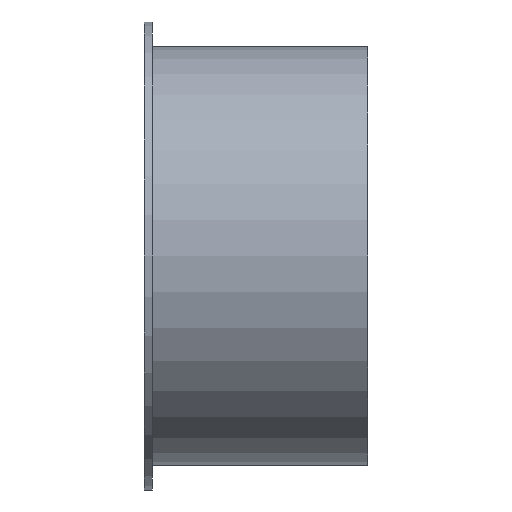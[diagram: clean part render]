
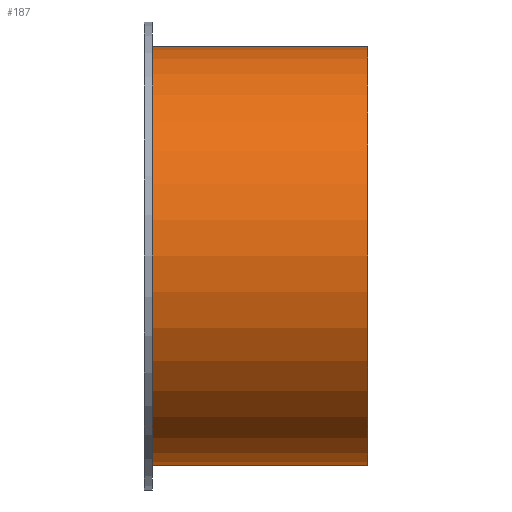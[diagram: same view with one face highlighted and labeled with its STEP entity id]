
A CAD part, front view. The second image highlights one B-rep face of the part: STEP entity #187.
In plain terms, the highlighted cylindrical face has radius 51.5 mm (diameter 103 mm), a full revolution.
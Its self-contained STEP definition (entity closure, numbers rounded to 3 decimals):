
#112=CARTESIAN_POINT('',(-15.,0.,0.0));
#113=VERTEX_POINT('',#112);
#114=CARTESIAN_POINT('',(-15.,51.5,0.0));
#115=DIRECTION('',(-1.0,0.0,0.0));
#116=DIRECTION('',(0.0,-1.0,0.0));
#117=AXIS2_PLACEMENT_3D('',#114,#115,#116);
#118=CIRCLE('',#117,51.5);
#119=EDGE_CURVE('',#113,#113,#118,.T.);
#161=CARTESIAN_POINT('',(38.0,0.,0.0));
#162=VERTEX_POINT('',#161);
#163=CARTESIAN_POINT('',(38.,51.5,0.0));
#164=DIRECTION('',(-1.0,0.0,0.0));
#165=DIRECTION('',(0.0,-1.0,0.0));
#166=AXIS2_PLACEMENT_3D('',#163,#164,#165);
#167=CIRCLE('',#166,51.5);
#168=EDGE_CURVE('',#162,#162,#167,.T.);
#176=CARTESIAN_POINT('',(11.5,51.5,0.0));
#177=DIRECTION('',(-1.0,0.,0.0));
#178=DIRECTION('',(0.0,-1.0,0.0));
#179=AXIS2_PLACEMENT_3D('',#176,#177,#178);
#180=CYLINDRICAL_SURFACE('',#179,51.5);
#181=ORIENTED_EDGE('',*,*,#119,.F.);
#182=EDGE_LOOP('',(#181));
#183=FACE_OUTER_BOUND('',#182,.T.);
#184=ORIENTED_EDGE('',*,*,#168,.T.);
#185=EDGE_LOOP('',(#184));
#186=FACE_BOUND('',#185,.T.);
#187=ADVANCED_FACE('',(#183,#186),#180,.T.);
